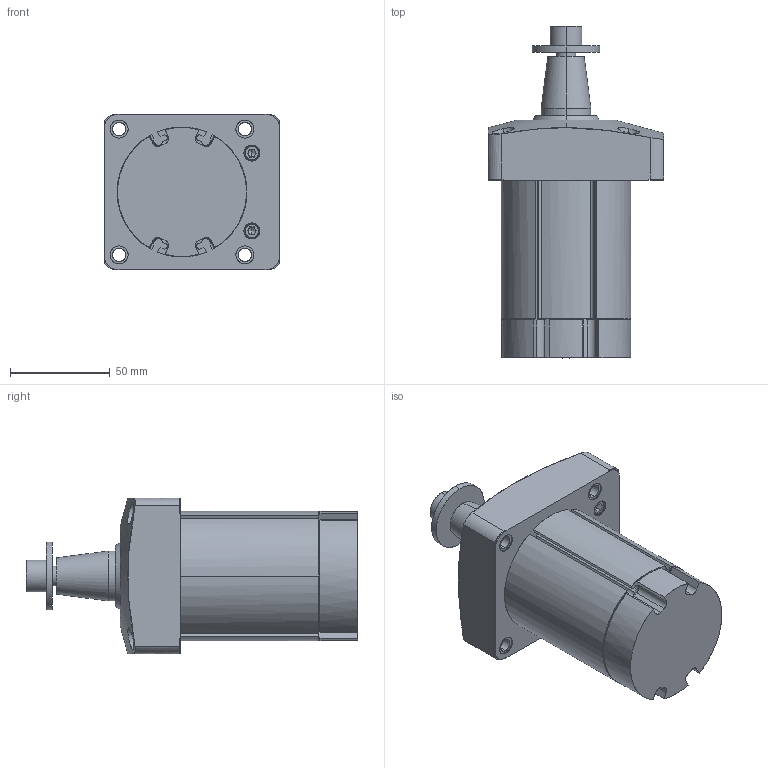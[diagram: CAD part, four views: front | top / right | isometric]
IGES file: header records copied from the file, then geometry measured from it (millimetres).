
Start section: Comment
Global section: file name: jsp40-19.igs; native system:  By Spatial Corp.; preprocessor: XPlus GENERIC/IGES 3.0; author: Author; organization: Title; date: 20080526.131239; units: millimetre
Bounding box: 88 x 166.2 x 78 mm (x, y, z)
Surface area: 85103.4 mm2 (no closed solid volume)
Topology: 0 solids, 0 shells, 323 faces, 1576 edges, 1562 vertices
Faces by surface type: bspline 323
